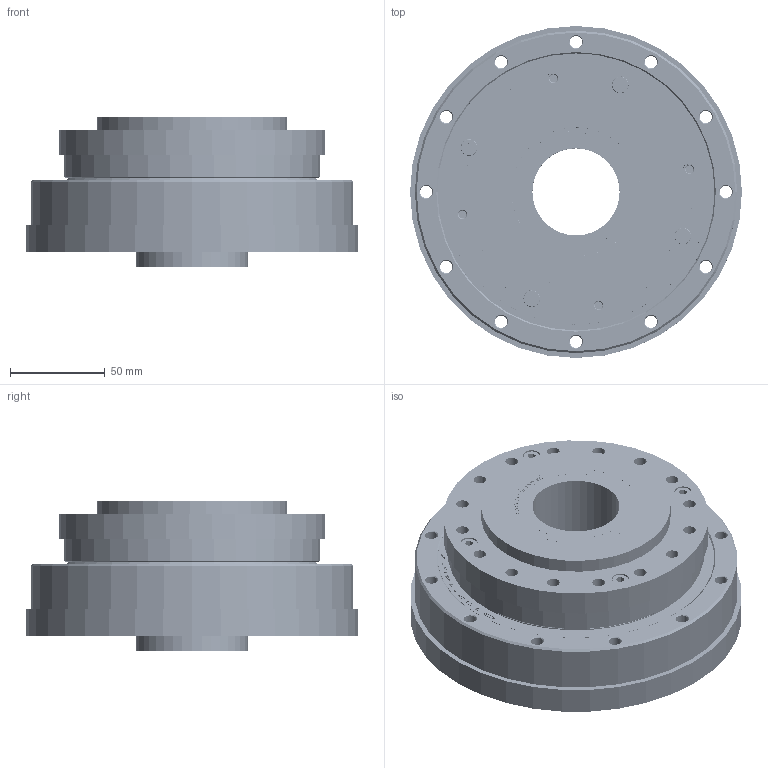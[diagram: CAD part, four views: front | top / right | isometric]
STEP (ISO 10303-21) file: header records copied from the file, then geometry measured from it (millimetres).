
FILE_DESCRIPTION(/* description */ (''),/* implementation_level */ '2;1');
FILE_NAME(/* name */ 'XBK40成品图.prt.stp',/* time_stamp */ '2022-05-21T13:35:03+08:00',/* author */ (''),/* organization */ (''),/* preprocessor_version */ 'ST-DEVELOPER v16',/* originating_system */ 'SIEMENS PLM Software NX 10.0',/* authorisation */ '');
FILE_SCHEMA (('CONFIG_CONTROL_DESIGN'));
Products named in the file (18): 40-柔性轴承保持架（日标）; M4X8; XBK40-4-1-1销子; YM4X12; M5X25; G1321467; G60789; G59685; 6812Z深沟球轴承; XBK40-6上盖板; XBK40-3-1凸轮; 6912Z深沟球轴承; XBK40-1钢轮; XBK40-4-2外圈; XBK40-2柔轮; 40-柔性轴承（日标）_MODEL; XBK40-4-1内芯_MODEL; XBK40成品图
Assembly tree (25 placements, depth 3):
  XBK40成品图
    XBK40-2柔轮
    XBK40-4-2外圈
    XBK40-4-1内芯_MODEL
      XBK40-4-1-1销子
      M4X8
    XBK40-1钢轮
    6912Z深沟球轴承
    XBK40-3-1凸轮
    40-柔性轴承（日标）_MODEL
      40-柔性轴承保持架（日标）
    XBK40-6上盖板
    6812Z深沟球轴承
    G59685
    G60789
    G1321467
    M5X25  x4
    YM4X12  x6
Bounding box: 175 x 175 x 79 mm (x, y, z)
Volume: 947402.4 mm3; surface area: 436687.3 mm2
Topology: 98 solids, 98 shells, 1347 faces, 3303 edges, 2158 vertices
Faces by surface type: plane 489, cylinder 311, cone 196, bspline 139, extrusion 128, sphere 69, torus 15
Full cylindrical faces by diameter (mm): 4.5 x13, 5.5 x4, 6.5 x40, 6.6 x32, 7.22 x1, 7.5 x6, 8 x7, 8.72 x4, 9 x8, 46 x1, 57 x1, 59 x3, 60 x6, 62 x2, 64.8 x2, 65 x3, 67 x2, 68 x2, 69 x1, 71.16 x1, 72.5 x1, 74 x3, 76 x1, 76.26 x2, 78 x4, 79 x2, 81.7 x1, 85 x2, 88 x1, 90.5 x1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
Entity records: 161891 total; most frequent: CARTESIAN_POINT 135847, ORIENTED_EDGE 4610, DIRECTION 4086, EDGE_CURVE 2305, EDGE_LOOP 1793, VERTEX_POINT 1777, AXIS2_PLACEMENT_3D 1684, FACE_BOUND 1199
